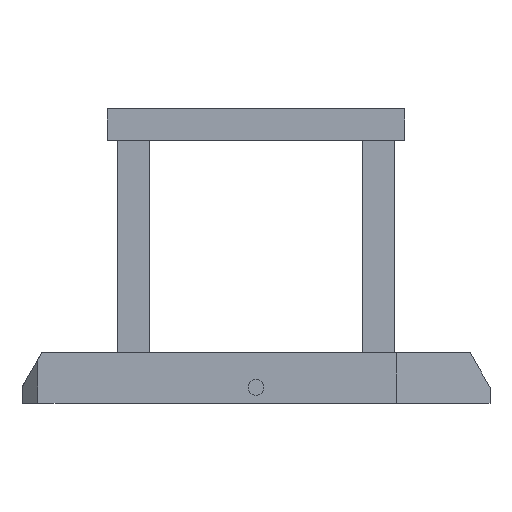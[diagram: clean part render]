
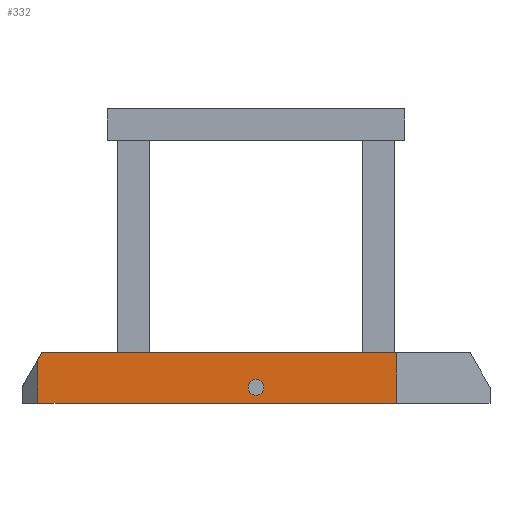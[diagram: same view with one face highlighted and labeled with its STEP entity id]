
A CAD part, front view. The second image highlights one B-rep face of the part: STEP entity #332.
In plain terms, the highlighted planar face has unit normal (0, -1, 0).
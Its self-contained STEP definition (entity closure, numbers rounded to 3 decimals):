
#332=ADVANCED_FACE('Solid.22 (  with JELE 7494 : from *SOL6 - wsp *MASTER -  ) ( Brep from *SOL6 )',(#867,#868),#869,.F.);
#867=FACE_OUTER_BOUND('',#1675,.T.);
#868=FACE_BOUND('',#1676,.T.);
#869=PLANE('',#1677);
#1675=EDGE_LOOP('',(#2564,#2565,#2566,#2567,#2568));
#1676=EDGE_LOOP('',(#2569,#2570));
#1677=AXIS2_PLACEMENT_3D('',#2571,#2572,#2573);
#2564=ORIENTED_EDGE('',*,*,#4349,.F.);
#2565=ORIENTED_EDGE('',*,*,#4470,.F.);
#2566=ORIENTED_EDGE('',*,*,#4471,.T.);
#2567=ORIENTED_EDGE('',*,*,#4408,.T.);
#2568=ORIENTED_EDGE('',*,*,#4468,.F.);
#2569=ORIENTED_EDGE('',*,*,#4472,.F.);
#2570=ORIENTED_EDGE('',*,*,#4473,.F.);
#2571=CARTESIAN_POINT('',(88.,-93.,25.0));
#2572=DIRECTION('',(0.0,1.0,0.0));
#2573=DIRECTION('',(0.0,0.0,-1.0));
#4349=EDGE_CURVE('',#5112,#5114,#5115,.T.);
#4408=EDGE_CURVE('',#5231,#5229,#5232,.T.);
#4468=EDGE_CURVE('',#5114,#5229,#5330,.T.);
#4470=EDGE_CURVE('',#5332,#5112,#5333,.T.);
#4471=EDGE_CURVE('',#5332,#5231,#5334,.T.);
#4472=EDGE_CURVE('',#5335,#5336,#5337,.F.);
#4473=EDGE_CURVE('',#5336,#5335,#5338,.F.);
#5112=VERTEX_POINT('',#6227);
#5114=VERTEX_POINT('',#6230);
#5115=LINE('',#6231,#6232);
#5229=VERTEX_POINT('',#6366);
#5231=VERTEX_POINT('',#6369);
#5232=LINE('',#6370,#6371);
#5330=LINE('',#6491,#6492);
#5332=VERTEX_POINT('',#6494);
#5333=LINE('',#6495,#6496);
#5334=LINE('',#6497,#6498);
#5335=VERTEX_POINT('',#6499);
#5336=VERTEX_POINT('',#6500);
#5337=CIRCLE('',#6501,3.0);
#5338=CIRCLE('',#6502,3.0);
#6227=CARTESIAN_POINT('',(7.46,-93.0,38.0));
#6230=CARTESIAN_POINT('',(141.,-93.0,38.0));
#6231=CARTESIAN_POINT('',(74.23,-93.0,38.0));
#6232=VECTOR('',#7602,1.0);
#6366=CARTESIAN_POINT('',(141.,-93.0,19.0));
#6369=CARTESIAN_POINT('',(6.,-93.0,19.0));
#6370=CARTESIAN_POINT('',(73.5,-93.0,19.0));
#6371=VECTOR('',#7732,1.0);
#6491=CARTESIAN_POINT('',(141.0,-93.,28.5));
#6492=VECTOR('',#7839,1.0);
#6494=CARTESIAN_POINT('',(6.0,-93.,35.472));
#6495=CARTESIAN_POINT('',(6.73,-93.,36.736));
#6496=VECTOR('',#7840,1.0);
#6497=CARTESIAN_POINT('',(6.0,-93.,27.236));
#6498=VECTOR('',#7841,1.0);
#6499=CARTESIAN_POINT('',(88.,-93.,22.0));
#6500=CARTESIAN_POINT('',(88.,-93.,28.0));
#6501=AXIS2_PLACEMENT_3D('',#7842,#7843,#7844);
#6502=AXIS2_PLACEMENT_3D('',#7845,#7846,#7847);
#7602=DIRECTION('',(1.0,0.0,0.0));
#7732=DIRECTION('',(1.0,0.0,0.0));
#7839=DIRECTION('',(0.0,0.0,-1.0));
#7840=DIRECTION('',(0.5,0.0,0.866));
#7841=DIRECTION('',(0.0,0.0,-1.0));
#7842=CARTESIAN_POINT('',(88.,-93.,25.0));
#7843=DIRECTION('',(0.0,1.0,0.0));
#7844=DIRECTION('',(0.0,0.0,-1.0));
#7845=CARTESIAN_POINT('',(88.,-93.,25.0));
#7846=DIRECTION('',(0.0,1.0,0.0));
#7847=DIRECTION('',(0.0,0.0,-1.0));
